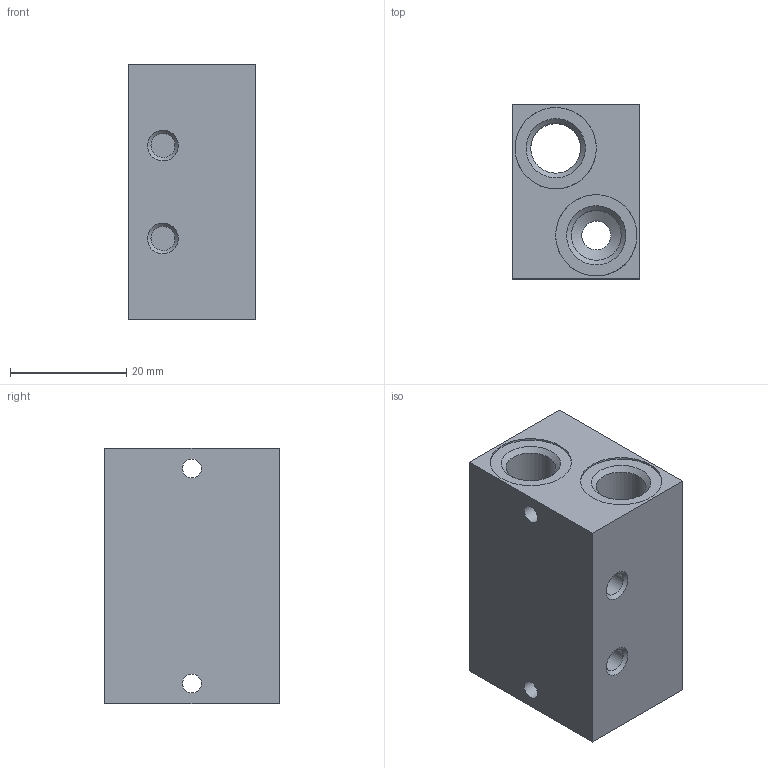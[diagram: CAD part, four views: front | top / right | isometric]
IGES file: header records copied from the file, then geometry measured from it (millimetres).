
Global section: file name: 355_02; native system: Autodesk Inventor 2014; preprocessor: unknown; author: R.Rivoltella; organization: Pneumax S.p.A.; date: 20161003.105241; units: millimetre
Bounding box: 22 x 30 x 44 mm (x, y, z)
Volume: 23916.3 mm3; surface area: 8592.8 mm2
Topology: 1 solids, 1 shells, 48 faces, 136 edges, 98 vertices
Faces by surface type: bspline 48
